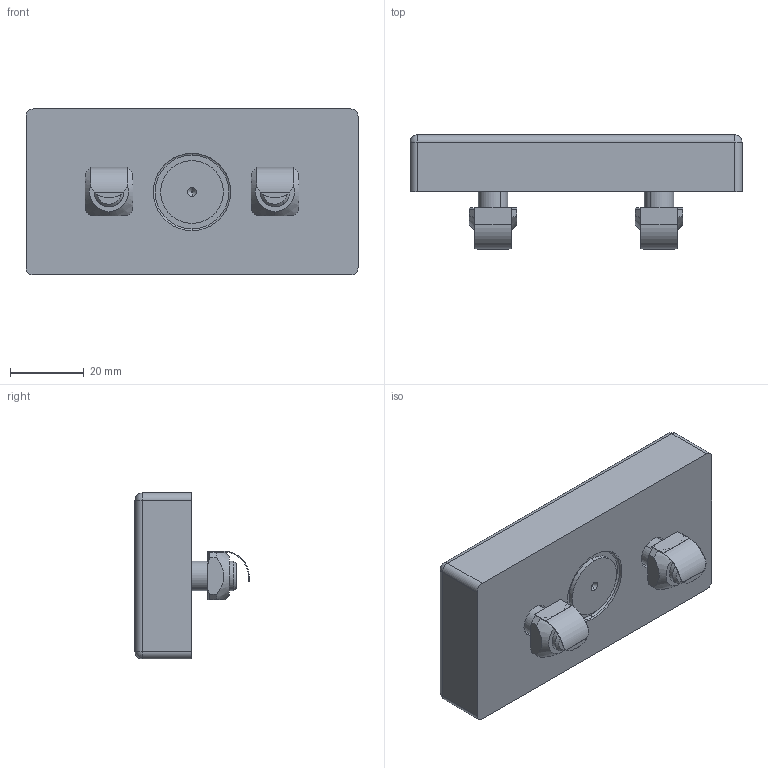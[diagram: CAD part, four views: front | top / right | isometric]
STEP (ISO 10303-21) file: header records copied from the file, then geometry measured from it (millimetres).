
FILE_DESCRIPTION (( 'STEP AP214' ), '1' );
FILE_NAME ('1.3036 Yhdistämislevy 45X90.STEP', '2025-09-08T09:02:55', ( '' ), ( '' ), 'SwSTEP 2.0', 'SolidWorks 2025', '' );
FILE_SCHEMA (( 'AUTOMOTIVE_DESIGN' ));
Length unit declared in the file: millimetre
Products named in the file (1): 1.3036 Yhdistämislevy 45X90
Bounding box: 90 x 30.95 x 45 mm (x, y, z)
Volume: 63142.8 mm3; surface area: 16646.6 mm2
Topology: 5 solids, 5 shells, 159 faces, 374 edges, 226 vertices
Faces by surface type: plane 85, cylinder 40, cone 20, torus 10, sphere 4
Entity records: 6488 total; most frequent: CARTESIAN_POINT 1034, DIRECTION 778, ORIENTED_EDGE 732, EDGE_CURVE 366, AXIS2_PLACEMENT_3D 290, VERTEX_POINT 226, VECTOR 198, LINE 198
